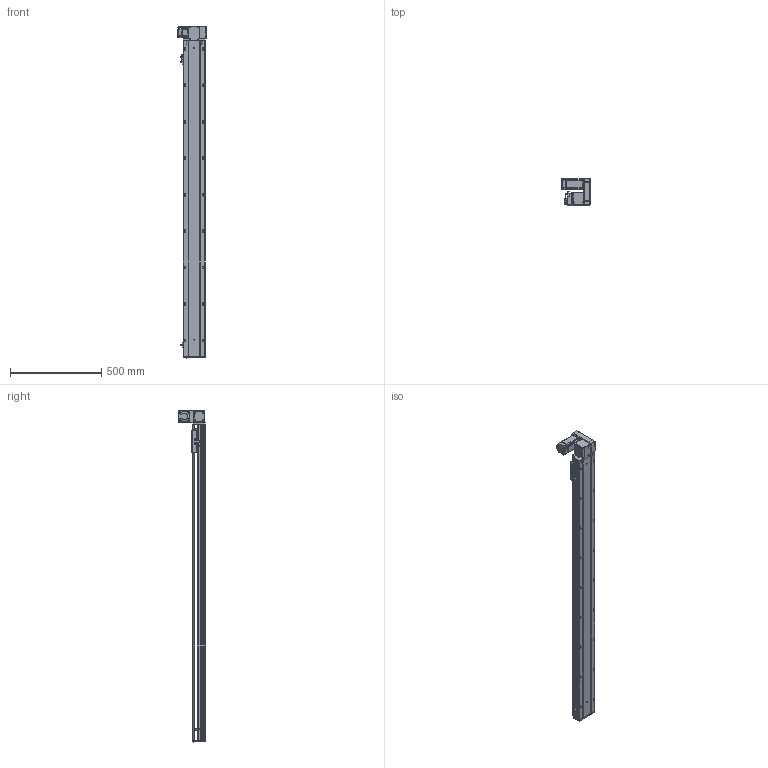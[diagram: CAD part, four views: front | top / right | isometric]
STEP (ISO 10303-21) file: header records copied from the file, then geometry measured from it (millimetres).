
FILE_DESCRIPTION (( 'STEP AP203' ), '1' );
FILE_NAME ('RY120-T-300-UR.SLDASM_1500.step', '2021-03-01T05:57:29', ( '盈信电脑' ), ( '东莞市道滘镇水果街19号' ), 'SwSTEP 2.0', 'SolidWorks 2012', '' );
FILE_SCHEMA (( 'CONFIG_CONTROL_DESIGN' ));
Length unit declared in the file: millimetre
Products named in the file (17): RY120-T主同步轮轴承压盖; RY120-T-300-UR.SLDASM_1500; RY120-T翋肮祭謫裔啣; RY120-T蹟翐M4; 15; RY120-T萇儂欶; RY120-T翋肮祭盓傅釱; 滅袉蝶18-10; RY120-T萇儂假蚾啣; 覜茼ん672; RY120外置感应片(140共用）; RY120-T肮祭湍揤踡輸2; RY120-T肮祭湍揤踡輸1; RY120綴裔啣; RY120肮祭湍臏賑輸; RY120-T-300-UR倰第奻裔啣_1500; RY120-T-300-UR倰第菁釱_1500
Assembly tree (22 placements, depth 2):
  RY120-T-300-UR.SLDASM_1500
    RY120-T-300-UR倰第菁釱_1500
    RY120-T-300-UR倰第奻裔啣_1500
    RY120肮祭湍臏賑輸
    RY120綴裔啣
    覜茼ん672  x3
    RY120外置感应片(140共用）
    RY120-T肮祭湍揤踡輸1
    RY120-T肮祭湍揤踡輸2
    RY120-T翋肮祭盓傅釱
    RY120-T萇儂假蚾啣
    滅袉蝶18-10  x2
    RY120-T翋肮祭謫裔啣
    15
    RY120-T蹟翐M4  x4
    RY120-T萇儂欶
    RY120-T主同步轮轴承压盖
Bounding box: 155.5 x 146 x 1821 mm (x, y, z)
Volume: 4711923.7 mm3; surface area: 1784425.5 mm2
Topology: 23 solids, 23 shells, 2968 faces, 8104 edges, 5176 vertices
Faces by surface type: plane 1432, cylinder 1158, cone 289, bspline 89
Entity records: 94885 total; most frequent: CARTESIAN_POINT 24446, ORIENTED_EDGE 14560, DIRECTION 13766, EDGE_CURVE 7280, VERTEX_POINT 4763, AXIS2_PLACEMENT_3D 4647, VECTOR 4472, LINE 4472
